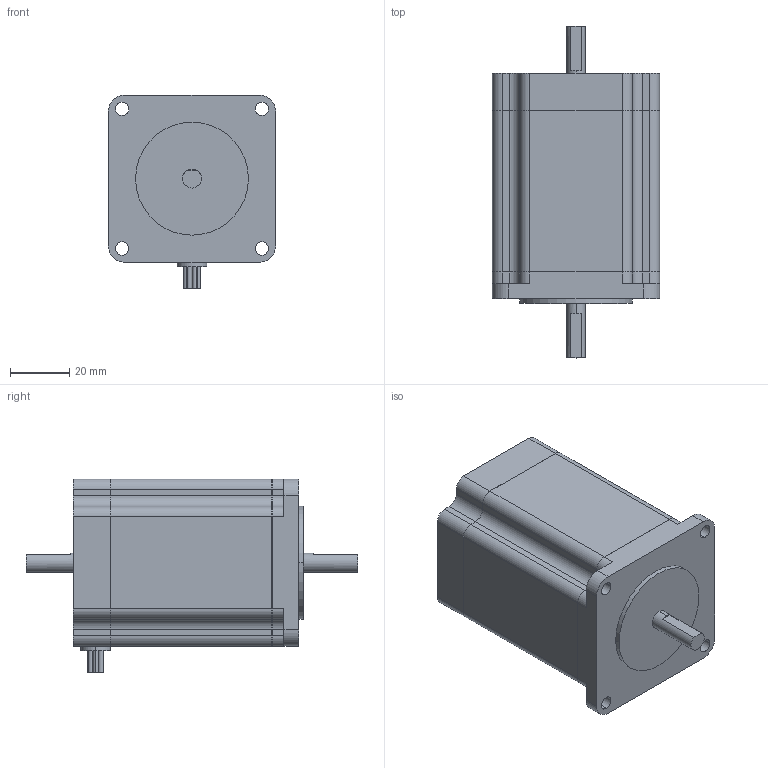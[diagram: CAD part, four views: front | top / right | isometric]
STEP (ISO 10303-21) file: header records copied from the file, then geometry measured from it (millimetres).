
FILE_DESCRIPTION(('starvars output'),'2;1');
FILE_NAME('CMK268MBP.stp','15:39:01 2015/05/11',( 'Thomas Industrial Network Germany GmbH'),( 'Thomas Industrial Network Germany GmbH'),'unknown preprocess','ACIS' ,'unknown authorization');
FILE_SCHEMA(('AUTOMOTIVE_DESIGN_CC2 {UNKNOWN IMPLEMENTATION LEVEL}'));
Length unit declared in the file: millimetre
Products named in the file (1): PRODUCT_ID_465
Bounding box: 56.4 x 112 x 65.4 mm (x, y, z)
Volume: 219900.1 mm3; surface area: 23479.6 mm2
Topology: 1 solids, 1 shells, 176 faces, 480 edges, 320 vertices
Faces by surface type: cylinder 92, plane 84
Entity records: 6888 total; most frequent: ORIENTED_EDGE 960, CARTESIAN_POINT 925, DIRECTION 922, EDGE_CURVE 480, VERTEX_POINT 320, AXIS2_PLACEMENT_3D 317, VECTOR 288, LINE 288
